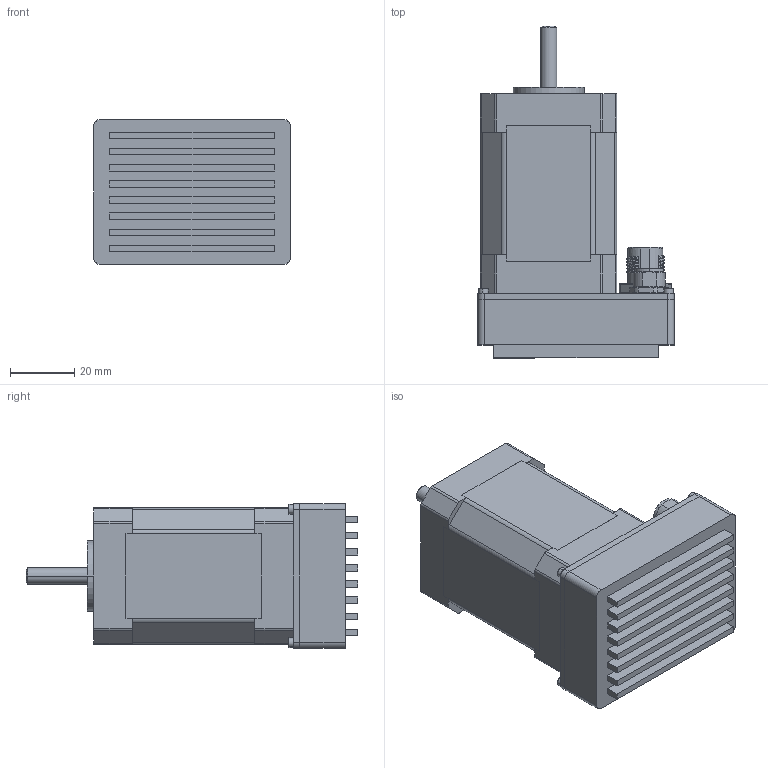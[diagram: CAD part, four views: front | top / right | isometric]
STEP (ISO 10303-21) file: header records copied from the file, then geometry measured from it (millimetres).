
FILE_DESCRIPTION (( 'STEP AP214' ), '1' );
FILE_NAME ('iMOT172B-TM-CAN.STEP', '2015-10-14T13:18:42', ( 'a_neacsu' ), ( '' ), 'SwSTEP 2.0', 'SolidWorks 2013', '' );
FILE_SCHEMA (( 'AUTOMOTIVE_DESIGN' ));
Length unit declared in the file: millimetre
Products named in the file (19): M12.PlasticInsert.PhCont1442081; M8 DeviceNet 1424242; M8 DeviceNet 1424241; LED_3mm; P026.710.0013.20A - Singleboard; bn7_screw_inbus_m1.6_6; Magnet; P026.161.0002.01A.Magnet.Carrier.Straight; P026.759.0011.01A.Cover_D‚faut; ME042ASxxx.revA_Brushless.172; M8 DeviceNet Nut male; M8 DeviceNet Nut female; iMOT172B-TM-CAN; M12.MetalHousing.PhCont1551493; Nut; O-Ring; Cylinder; P026.759.0010.01C.Baseplate.TM.CAN_D‚faut; P026.610.0013.20A - Singleboard_TM-CAN-User
Assembly tree (22 placements, depth 3):
  iMOT172B-TM-CAN
    ME042ASxxx.revA_Brushless.172
    P026.161.0002.01A.Magnet.Carrier.Straight
    Magnet
    bn7_screw_inbus_m1.6_6  x4
    P026.610.0013.20A - Singleboard_TM-CAN-User
      P026.710.0013.20A - Singleboard
      LED_3mm  x2
      M8 DeviceNet 1424241
      M8 DeviceNet 1424242
      M12.PlasticInsert.PhCont1442081
    P026.759.0010.01C.Baseplate.TM.CAN_D‚faut
    M12.MetalHousing.PhCont1551493
      Cylinder
      O-Ring
      Nut
    M8 DeviceNet Nut female
    M8 DeviceNet Nut male
    P026.759.0011.01A.Cover_D‚faut
Bounding box: 61 x 103 x 45 mm (x, y, z)
Volume: 133186.3 mm3; surface area: 46572 mm2
Topology: 20 solids, 22 shells, 2701 faces, 7038 edges, 4486 vertices
Faces by surface type: plane 1129, cylinder 1055, cone 211, bspline 116, torus 104, sphere 86
Entity records: 94780 total; most frequent: CARTESIAN_POINT 22074, ORIENTED_EDGE 12612, DIRECTION 12576, EDGE_CURVE 6306, AXIS2_PLACEMENT_3D 4636, VERTEX_POINT 4084, LINE 3304, VECTOR 3304
